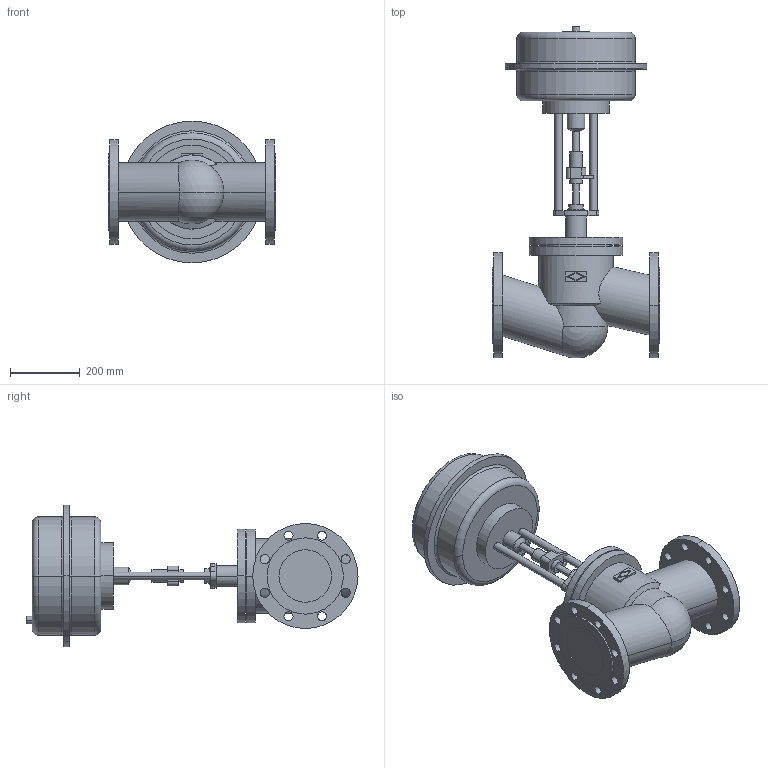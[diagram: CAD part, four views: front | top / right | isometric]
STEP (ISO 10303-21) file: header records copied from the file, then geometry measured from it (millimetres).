
FILE_DESCRIPTION(('OneSpaceDesigner STEP Export'),'2;1');
FILE_NAME('c000003116.stp','2007-01-16T10:28:38',(''),(''),'OneSpace Designer STEP processor for AP214 (Solid Model)','OneSpace Designer 14.00B 27-May-2006 (C) CoCreate Software GmbH','');
FILE_SCHEMA(('AUTOMOTIVE_DESIGN { 1 0 10303 214 1 1 1 1 }'));
Length unit declared in the file: millimetre
Products named in the file (2): 1; 2
Bounding box: 480 x 948.77 x 405 mm (x, y, z)
Volume: 40053303.1 mm3; surface area: 1328066.5 mm2
Topology: 2 solids, 2 shells, 172 faces, 414 edges, 271 vertices
Faces by surface type: cylinder 96, plane 60, torus 10, cone 4, sphere 2
Entity records: 4751 total; most frequent: CARTESIAN_POINT 1032, ORIENTED_EDGE 824, DIRECTION 669, EDGE_CURVE 412, VERTEX_POINT 271, AXIS2_PLACEMENT_3D 245, EDGE_LOOP 231, VECTOR 179
